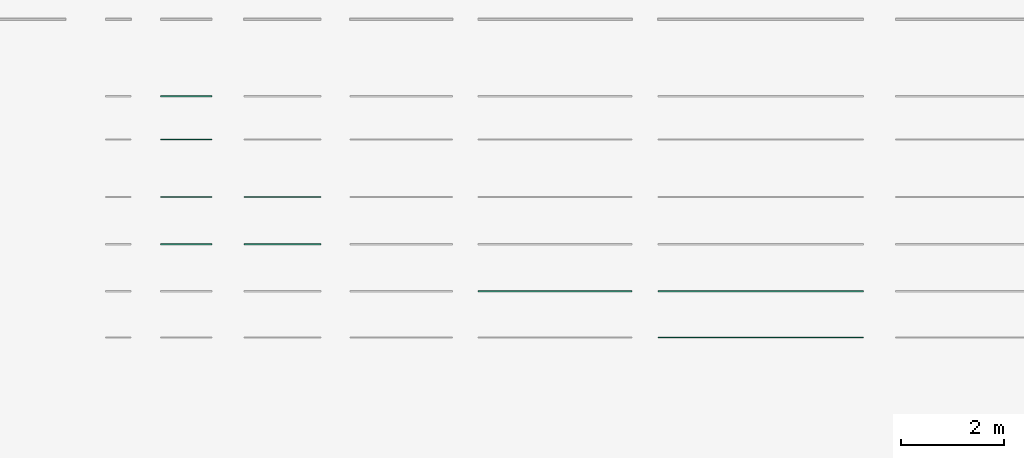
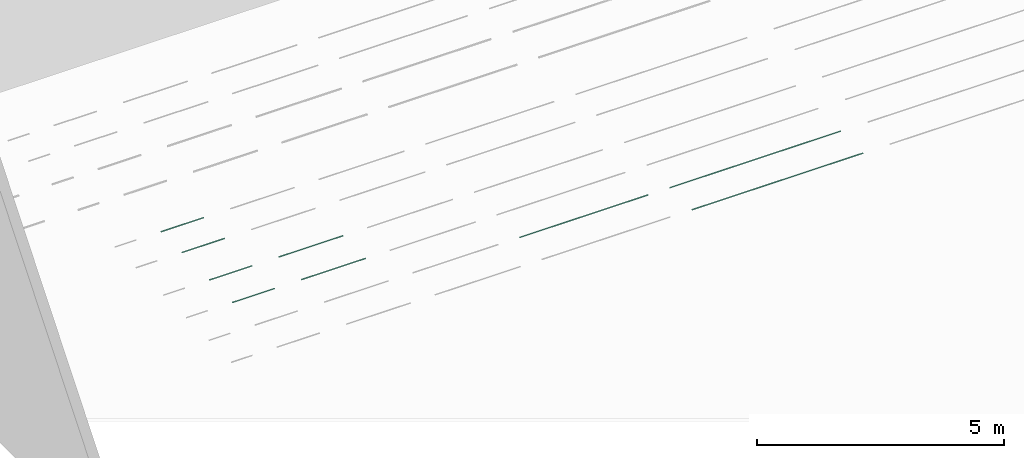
# One storey, part 6 of 197: 9 flow terminals.
"""IFC2X3 building model written with IfcOpenShell, lengths in metres."""

from ifc_helpers import new_model, entity, si_unit, converted_unit, direction, frame, frame_2d, origin, origin_2d_with_axis, place, context, subcontext, project, spatial, polyline, rectangle, circle, outline, extrude, source, transform, mapped, material, material_list, type_object, type_shapes, element, save


model = new_model("IFC2X3")

# Units and contexts
model_context = context("Model", 3, precision=1e-05, world=origin(), true_north=direction((6.123031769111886e-17, 1.0)))
body_context = subcontext(model_context, "Body", "Model", "MODEL_VIEW")
ifc_project = project(units=[si_unit("LENGTHUNIT", "METRE"), converted_unit("PLANEANGLEUNIT", "DEGREE", entity("IfcPlaneAngleMeasure", 0.017453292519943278), si_unit("PLANEANGLEUNIT", "RADIAN"), dimensions=[0, 0, 0, 0, 0, 0, 0]), si_unit("AREAUNIT", "SQUARE_METRE")], contexts=[model_context])

# Site, building, storey
site_placement = place(None, origin())
site = spatial("IfcSite", under=ifc_project, at=site_placement, Name="Default", CompositionType="ELEMENT")
building_placement = place(site_placement, origin())
building = spatial("IfcBuilding", under=site, at=building_placement, CompositionType="ELEMENT")
storey_placement = place(building_placement, origin())
storey = spatial("IfcBuildingStorey", under=building, at=storey_placement, Name="Niveau 0", CompositionType="ELEMENT", Elevation=0.0)

# Flow terminals
ifc_material_1 = material(Name="BETCE-DIFFUSEUR-BLANC")
ifc_material_2 = material(Name="<Unnamed>")
ifc_material_list = material_list([ifc_material_1, ifc_material_2])
light_fixture_type_1 = type_object("IfcLightFixtureType", Name="Profilé alu sailli_suspendu_engravure-20X20:PROF-SAILLIE -1M", PredefinedType="NOTDEFINED", material=ifc_material_list)
shared_shape_1 = source(origin(), body_context, "Body", "SweptSolid", [
    extrude(rectangle(XDim=0.9959999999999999, YDim=0.018935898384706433, at=origin_2d_with_axis()), frame((0.0, 0.0, 1.4999999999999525), z_axis=(0.0, 0.0, 1.0), x_axis=(-1.0, 0.0, 0.0)), (0.0, 0.0, 1.0), 0.0008000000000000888),
    extrude(outline(polyline([(0.004349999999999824, -0.009467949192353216), (0.0051499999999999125, -0.009467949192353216), (0.0051499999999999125, 0.009467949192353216), (0.004349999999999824, 0.009467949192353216), (0.004349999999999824, 0.010467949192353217), (-0.0138500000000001, 0.010467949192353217), (-0.0138500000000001, -0.010467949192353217), (0.004349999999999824, -0.010467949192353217), (0.004349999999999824, -0.009467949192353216)])), frame((0.498, 0.0, 1.5051499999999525), z_axis=(1.0, 0.0, 0.0), x_axis=(0.0, 0.0, -1.0)), (0.0, 0.0, 1.0), 0.002000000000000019),
    extrude(outline(polyline([(0.009467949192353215, -0.004349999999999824), (0.010467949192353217, -0.004349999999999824), (0.010467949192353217, 0.0138500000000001), (-0.010467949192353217, 0.0138500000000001), (-0.010467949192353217, -0.004349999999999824), (-0.009467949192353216, -0.004349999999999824), (-0.009467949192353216, -0.0051499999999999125), (0.009467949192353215, -0.0051499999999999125), (0.009467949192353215, -0.004349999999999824)])), frame((-0.49999999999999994, 0.0, 1.5051499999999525), z_axis=(1.0, 0.0, 0.0), x_axis=(0.0, 1.0, 0.0)), (0.0, 0.0, 1.0), 0.002000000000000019),
    extrude(outline(polyline([(-0.012292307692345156, -0.011500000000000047), (0.007707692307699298, -0.011500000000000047), (0.007707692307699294, -0.009467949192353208), (0.0069076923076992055, -0.009467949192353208), (0.006907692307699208, -0.010467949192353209), (-0.011292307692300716, -0.010467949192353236), (-0.011292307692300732, 0.0), (-0.011292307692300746, 0.010467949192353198), (0.006907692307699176, 0.010467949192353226), (0.006907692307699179, 0.009467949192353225), (0.0077076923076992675, 0.009467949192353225), (0.007707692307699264, 0.011500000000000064), (-0.012292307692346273, 0.011500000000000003), (-0.012292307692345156, -0.011500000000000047)])), frame((-0.49999999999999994, 0.0, 1.5077076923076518), z_axis=(1.0, 0.0, 0.0), x_axis=(0.0, 0.0, -1.0)), (0.0, 0.0, 1.0), 1.0),
    extrude(circle(Radius=0.0019999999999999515, at=frame_2d((1.5388467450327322e-29, 0.0), x_axis=(1.0, 0.0))), frame((-0.3999999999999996, 0.0, 1.5199999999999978), z_axis=(0.0, 0.0, 1.0), x_axis=(0.0, -1.0, 0.0)), (0.0, 0.0, 1.0), 0.0010000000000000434),
    extrude(circle(Radius=0.0019999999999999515, at=frame_2d((-4.123551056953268e-20, 0.0), x_axis=(1.0, 0.0))), frame((0.40000000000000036, 0.0, 1.5199999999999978), z_axis=(0.0, 0.0, 1.0), x_axis=(0.0, -1.0, 0.0)), (0.0, 0.0, 1.0), 0.0010000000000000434),
])
type_shapes(light_fixture_type_1, [shared_shape_1])
flow_terminal_1_placement = place(storey_placement, frame((-534.6757105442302, 64.29268111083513, 0.0)))
element("IfcFlowTerminal", 1, at=flow_terminal_1_placement, inside=storey, type_object=light_fixture_type_1, material=ifc_material_list, Name="Profilé alu sailli_suspendu_engravure-20X20:PROF-SAILLIE -1M", ObjectType="Profilé alu sailli_suspendu_engravure-20X20:PROF-SAILLIE -1M", context=body_context, shape_type="MappedRepresentation", body=[
    mapped(shared_shape_1, transform((0.0, 0.0, 0.0), scale=1.0)),
])
light_fixture_type_2 = type_object("IfcLightFixtureType", Name="Profilé alu sailli_suspendu_engravure-20X20:PROF-SAILLIE DALI -1M", PredefinedType="NOTDEFINED", material=ifc_material_list)
shared_shape_2 = source(origin(), body_context, "Body", "SweptSolid", [
    extrude(rectangle(XDim=0.9959999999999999, YDim=0.018935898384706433, at=origin_2d_with_axis()), frame((0.0, 0.0, 1.4999999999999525), z_axis=(0.0, 0.0, 1.0), x_axis=(-1.0, 0.0, 0.0)), (0.0, 0.0, 1.0), 0.0008000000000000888),
    extrude(outline(polyline([(0.004349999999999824, -0.009467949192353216), (0.0051499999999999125, -0.009467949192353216), (0.0051499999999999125, 0.009467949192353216), (0.004349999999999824, 0.009467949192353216), (0.004349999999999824, 0.010467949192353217), (-0.0138500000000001, 0.010467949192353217), (-0.0138500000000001, -0.010467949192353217), (0.004349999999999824, -0.010467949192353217), (0.004349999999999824, -0.009467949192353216)])), frame((0.498, 0.0, 1.5051499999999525), z_axis=(1.0, 0.0, 0.0), x_axis=(0.0, 0.0, -1.0)), (0.0, 0.0, 1.0), 0.002000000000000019),
    extrude(outline(polyline([(0.009467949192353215, -0.004349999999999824), (0.010467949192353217, -0.004349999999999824), (0.010467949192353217, 0.0138500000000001), (-0.010467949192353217, 0.0138500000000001), (-0.010467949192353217, -0.004349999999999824), (-0.009467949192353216, -0.004349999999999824), (-0.009467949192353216, -0.0051499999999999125), (0.009467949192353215, -0.0051499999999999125), (0.009467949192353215, -0.004349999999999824)])), frame((-0.49999999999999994, 0.0, 1.5051499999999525), z_axis=(1.0, 0.0, 0.0), x_axis=(0.0, 1.0, 0.0)), (0.0, 0.0, 1.0), 0.002000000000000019),
    extrude(outline(polyline([(-0.012292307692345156, -0.011500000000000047), (0.007707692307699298, -0.011500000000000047), (0.007707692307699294, -0.009467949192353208), (0.0069076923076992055, -0.009467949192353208), (0.006907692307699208, -0.010467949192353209), (-0.011292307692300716, -0.010467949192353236), (-0.011292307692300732, 0.0), (-0.011292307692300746, 0.010467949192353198), (0.006907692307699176, 0.010467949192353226), (0.006907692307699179, 0.009467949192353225), (0.0077076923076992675, 0.009467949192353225), (0.007707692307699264, 0.011500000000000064), (-0.012292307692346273, 0.011500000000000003), (-0.012292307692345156, -0.011500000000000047)])), frame((-0.49999999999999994, 0.0, 1.5077076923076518), z_axis=(1.0, 0.0, 0.0), x_axis=(0.0, 0.0, -1.0)), (0.0, 0.0, 1.0), 1.0),
    extrude(circle(Radius=0.0019999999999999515, at=frame_2d((1.5388467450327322e-29, 0.0), x_axis=(1.0, 0.0))), frame((-0.3999999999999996, 0.0, 1.5199999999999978), z_axis=(0.0, 0.0, 1.0), x_axis=(0.0, -1.0, 0.0)), (0.0, 0.0, 1.0), 0.0010000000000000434),
    extrude(circle(Radius=0.0019999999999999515, at=frame_2d((-4.123551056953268e-20, 0.0), x_axis=(1.0, 0.0))), frame((0.40000000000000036, 0.0, 1.5199999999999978), z_axis=(0.0, 0.0, 1.0), x_axis=(0.0, -1.0, 0.0)), (0.0, 0.0, 1.0), 0.0010000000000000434),
])
type_shapes(light_fixture_type_2, [shared_shape_2])
flow_terminal_2_placement = place(storey_placement, frame((-534.6757105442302, 63.44635524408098, 0.0)))
element("IfcFlowTerminal", 2, at=flow_terminal_2_placement, inside=storey, type_object=light_fixture_type_2, material=ifc_material_list, Name="Profilé alu sailli_suspendu_engravure-20X20:PROF-SAILLIE DALI -1M", ObjectType="Profilé alu sailli_suspendu_engravure-20X20:PROF-SAILLIE DALI -1M", context=body_context, shape_type="MappedRepresentation", body=[
    mapped(shared_shape_2, transform((0.0, 0.0, 0.0), scale=1.0)),
])
light_fixture_type_3 = type_object("IfcLightFixtureType", Name="Profilé alu sailli_suspendu_engravure-20X20:PROF-SUSPENDU -1.5M", PredefinedType="NOTDEFINED", material=ifc_material_list)
shared_shape_3 = source(origin(), body_context, "Body", "SweptSolid", [
    extrude(rectangle(XDim=1.496, YDim=0.018935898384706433, at=origin_2d_with_axis()), frame((0.0, 0.0, 1.4999999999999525), z_axis=(0.0, 0.0, 1.0), x_axis=(-1.0, 0.0, 0.0)), (0.0, 0.0, 1.0), 0.0008000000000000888),
    extrude(outline(polyline([(0.004349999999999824, -0.009467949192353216), (0.0051499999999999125, -0.009467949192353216), (0.0051499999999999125, 0.009467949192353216), (0.004349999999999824, 0.009467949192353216), (0.004349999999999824, 0.010467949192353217), (-0.0138500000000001, 0.010467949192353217), (-0.0138500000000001, -0.010467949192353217), (0.004349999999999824, -0.010467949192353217), (0.004349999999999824, -0.009467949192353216)])), frame((0.748, 0.0, 1.5051499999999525), z_axis=(1.0, 0.0, 0.0), x_axis=(0.0, 0.0, -1.0)), (0.0, 0.0, 1.0), 0.0019999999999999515),
    extrude(outline(polyline([(0.009467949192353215, -0.004349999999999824), (0.010467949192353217, -0.004349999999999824), (0.010467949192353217, 0.0138500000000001), (-0.010467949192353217, 0.0138500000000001), (-0.010467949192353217, -0.004349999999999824), (-0.009467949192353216, -0.004349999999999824), (-0.009467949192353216, -0.0051499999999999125), (0.009467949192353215, -0.0051499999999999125), (0.009467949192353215, -0.004349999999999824)])), frame((-0.7499999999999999, 0.0, 1.5051499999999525), z_axis=(1.0, 0.0, 0.0), x_axis=(0.0, 1.0, 0.0)), (0.0, 0.0, 1.0), 0.0019999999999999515),
    extrude(outline(polyline([(-0.012292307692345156, -0.011500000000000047), (0.007707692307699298, -0.011500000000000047), (0.007707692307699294, -0.009467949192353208), (0.0069076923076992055, -0.009467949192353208), (0.006907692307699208, -0.010467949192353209), (-0.011292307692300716, -0.010467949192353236), (-0.011292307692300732, 0.0), (-0.011292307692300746, 0.010467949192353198), (0.006907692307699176, 0.010467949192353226), (0.006907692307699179, 0.009467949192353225), (0.0077076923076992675, 0.009467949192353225), (0.007707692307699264, 0.011500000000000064), (-0.012292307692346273, 0.011500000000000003), (-0.012292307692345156, -0.011500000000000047)])), frame((-0.7499999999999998, 0.0, 1.5077076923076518), z_axis=(1.0, 0.0, 0.0), x_axis=(0.0, 0.0, -1.0)), (0.0, 0.0, 1.0), 1.4999999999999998),
    extrude(circle(Radius=0.0019999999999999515, at=frame_2d((1.5388467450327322e-29, 0.0), x_axis=(1.0, 0.0))), frame((-0.6499999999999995, 0.0, 1.5199999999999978), z_axis=(0.0, 0.0, 1.0), x_axis=(0.0, -1.0, 0.0)), (0.0, 0.0, 1.0), 0.0010000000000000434),
    extrude(circle(Radius=0.0019999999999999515, at=frame_2d((-4.123551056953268e-20, 0.0), x_axis=(1.0, 0.0))), frame((0.6500000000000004, 0.0, 1.5199999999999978), z_axis=(0.0, 0.0, 1.0), x_axis=(0.0, -1.0, 0.0)), (0.0, 0.0, 1.0), 0.0010000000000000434),
])
type_shapes(light_fixture_type_3, [shared_shape_3])
flow_terminal_3_placement = place(storey_placement, frame((-532.8067105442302, 62.331355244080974, 0.0)))
element("IfcFlowTerminal", 3, at=flow_terminal_3_placement, inside=storey, type_object=light_fixture_type_3, material=ifc_material_list, Name="Profilé alu sailli_suspendu_engravure-20X20:PROF-SUSPENDU -1.5M", ObjectType="Profilé alu sailli_suspendu_engravure-20X20:PROF-SUSPENDU -1.5M", context=body_context, shape_type="MappedRepresentation", body=[
    mapped(shared_shape_3, transform((0.0, 0.0, 0.0), scale=1.0)),
])
light_fixture_type_4 = type_object("IfcLightFixtureType", Name="Profilé alu sailli_suspendu_engravure-20X20:PROF-SUSPENDU -1M", PredefinedType="NOTDEFINED", material=ifc_material_list)
shared_shape_4 = source(origin(), body_context, "Body", "SweptSolid", [
    extrude(rectangle(XDim=0.9959999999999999, YDim=0.018935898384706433, at=origin_2d_with_axis()), frame((0.0, 0.0, 1.4999999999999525), z_axis=(0.0, 0.0, 1.0), x_axis=(-1.0, 0.0, 0.0)), (0.0, 0.0, 1.0), 0.0008000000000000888),
    extrude(outline(polyline([(0.004349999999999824, -0.009467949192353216), (0.0051499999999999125, -0.009467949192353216), (0.0051499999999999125, 0.009467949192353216), (0.004349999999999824, 0.009467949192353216), (0.004349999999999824, 0.010467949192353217), (-0.0138500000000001, 0.010467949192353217), (-0.0138500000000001, -0.010467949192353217), (0.004349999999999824, -0.010467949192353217), (0.004349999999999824, -0.009467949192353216)])), frame((0.498, 0.0, 1.5051499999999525), z_axis=(1.0, 0.0, 0.0), x_axis=(0.0, 0.0, -1.0)), (0.0, 0.0, 1.0), 0.002000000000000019),
    extrude(outline(polyline([(0.009467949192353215, -0.004349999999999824), (0.010467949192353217, -0.004349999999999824), (0.010467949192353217, 0.0138500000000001), (-0.010467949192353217, 0.0138500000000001), (-0.010467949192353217, -0.004349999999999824), (-0.009467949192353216, -0.004349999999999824), (-0.009467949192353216, -0.0051499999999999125), (0.009467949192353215, -0.0051499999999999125), (0.009467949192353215, -0.004349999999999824)])), frame((-0.49999999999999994, 0.0, 1.5051499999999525), z_axis=(1.0, 0.0, 0.0), x_axis=(0.0, 1.0, 0.0)), (0.0, 0.0, 1.0), 0.002000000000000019),
    extrude(outline(polyline([(-0.012292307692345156, -0.011500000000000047), (0.007707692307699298, -0.011500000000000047), (0.007707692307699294, -0.009467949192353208), (0.0069076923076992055, -0.009467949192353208), (0.006907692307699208, -0.010467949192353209), (-0.011292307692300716, -0.010467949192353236), (-0.011292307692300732, 0.0), (-0.011292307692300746, 0.010467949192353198), (0.006907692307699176, 0.010467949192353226), (0.006907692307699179, 0.009467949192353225), (0.0077076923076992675, 0.009467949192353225), (0.007707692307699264, 0.011500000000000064), (-0.012292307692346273, 0.011500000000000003), (-0.012292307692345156, -0.011500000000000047)])), frame((-0.49999999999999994, 0.0, 1.5077076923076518), z_axis=(1.0, 0.0, 0.0), x_axis=(0.0, 0.0, -1.0)), (0.0, 0.0, 1.0), 1.0),
    extrude(circle(Radius=0.0019999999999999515, at=frame_2d((1.5388467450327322e-29, 0.0), x_axis=(1.0, 0.0))), frame((-0.3999999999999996, 0.0, 1.5199999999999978), z_axis=(0.0, 0.0, 1.0), x_axis=(0.0, -1.0, 0.0)), (0.0, 0.0, 1.0), 0.0010000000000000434),
    extrude(circle(Radius=0.0019999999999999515, at=frame_2d((-4.123551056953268e-20, 0.0), x_axis=(1.0, 0.0))), frame((0.40000000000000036, 0.0, 1.5199999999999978), z_axis=(0.0, 0.0, 1.0), x_axis=(0.0, -1.0, 0.0)), (0.0, 0.0, 1.0), 0.0010000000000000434),
])
type_shapes(light_fixture_type_4, [shared_shape_4])
flow_terminal_4_placement = place(storey_placement, frame((-534.6757105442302, 62.331355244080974, 0.0)))
element("IfcFlowTerminal", 4, at=flow_terminal_4_placement, inside=storey, type_object=light_fixture_type_4, material=ifc_material_list, Name="Profilé alu sailli_suspendu_engravure-20X20:PROF-SUSPENDU -1M", ObjectType="Profilé alu sailli_suspendu_engravure-20X20:PROF-SUSPENDU -1M", context=body_context, shape_type="MappedRepresentation", body=[
    mapped(shared_shape_4, transform((0.0, 0.0, 0.0), scale=1.0)),
])
light_fixture_type_5 = type_object("IfcLightFixtureType", Name="Profilé alu sailli_suspendu_engravure-20X20:PROF-SUSPENDU DALI -1.5M", PredefinedType="NOTDEFINED", material=ifc_material_list)
shared_shape_5 = source(origin(), body_context, "Body", "SweptSolid", [
    extrude(rectangle(XDim=1.496, YDim=0.018935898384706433, at=origin_2d_with_axis()), frame((0.0, 0.0, 1.4999999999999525), z_axis=(0.0, 0.0, 1.0), x_axis=(-1.0, 0.0, 0.0)), (0.0, 0.0, 1.0), 0.0008000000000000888),
    extrude(outline(polyline([(0.004349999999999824, -0.009467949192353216), (0.0051499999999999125, -0.009467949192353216), (0.0051499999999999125, 0.009467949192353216), (0.004349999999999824, 0.009467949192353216), (0.004349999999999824, 0.010467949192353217), (-0.0138500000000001, 0.010467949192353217), (-0.0138500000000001, -0.010467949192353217), (0.004349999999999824, -0.010467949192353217), (0.004349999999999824, -0.009467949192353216)])), frame((0.748, 0.0, 1.5051499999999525), z_axis=(1.0, 0.0, 0.0), x_axis=(0.0, 0.0, -1.0)), (0.0, 0.0, 1.0), 0.0019999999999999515),
    extrude(outline(polyline([(0.009467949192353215, -0.004349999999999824), (0.010467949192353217, -0.004349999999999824), (0.010467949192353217, 0.0138500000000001), (-0.010467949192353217, 0.0138500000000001), (-0.010467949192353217, -0.004349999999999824), (-0.009467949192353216, -0.004349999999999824), (-0.009467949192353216, -0.0051499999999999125), (0.009467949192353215, -0.0051499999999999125), (0.009467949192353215, -0.004349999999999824)])), frame((-0.7499999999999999, 0.0, 1.5051499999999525), z_axis=(1.0, 0.0, 0.0), x_axis=(0.0, 1.0, 0.0)), (0.0, 0.0, 1.0), 0.0019999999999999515),
    extrude(outline(polyline([(-0.012292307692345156, -0.011500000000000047), (0.007707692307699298, -0.011500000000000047), (0.007707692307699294, -0.009467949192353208), (0.0069076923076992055, -0.009467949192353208), (0.006907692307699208, -0.010467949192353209), (-0.011292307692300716, -0.010467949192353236), (-0.011292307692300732, 0.0), (-0.011292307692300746, 0.010467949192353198), (0.006907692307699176, 0.010467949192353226), (0.006907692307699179, 0.009467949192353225), (0.0077076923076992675, 0.009467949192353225), (0.007707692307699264, 0.011500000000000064), (-0.012292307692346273, 0.011500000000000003), (-0.012292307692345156, -0.011500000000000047)])), frame((-0.7499999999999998, 0.0, 1.5077076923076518), z_axis=(1.0, 0.0, 0.0), x_axis=(0.0, 0.0, -1.0)), (0.0, 0.0, 1.0), 1.4999999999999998),
    extrude(circle(Radius=0.0019999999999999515, at=frame_2d((1.5388467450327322e-29, 0.0), x_axis=(1.0, 0.0))), frame((-0.6499999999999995, 0.0, 1.5199999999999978), z_axis=(0.0, 0.0, 1.0), x_axis=(0.0, -1.0, 0.0)), (0.0, 0.0, 1.0), 0.0010000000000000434),
    extrude(circle(Radius=0.0019999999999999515, at=frame_2d((-4.123551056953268e-20, 0.0), x_axis=(1.0, 0.0))), frame((0.6500000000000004, 0.0, 1.5199999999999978), z_axis=(0.0, 0.0, 1.0), x_axis=(0.0, -1.0, 0.0)), (0.0, 0.0, 1.0), 0.0010000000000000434),
])
type_shapes(light_fixture_type_5, [shared_shape_5])
flow_terminal_5_placement = place(storey_placement, frame((-532.8067105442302, 61.41235524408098, 0.0)))
element("IfcFlowTerminal", 5, at=flow_terminal_5_placement, inside=storey, type_object=light_fixture_type_5, material=ifc_material_list, Name="Profilé alu sailli_suspendu_engravure-20X20:PROF-SUSPENDU DALI -1.5M", ObjectType="Profilé alu sailli_suspendu_engravure-20X20:PROF-SUSPENDU DALI -1.5M", context=body_context, shape_type="MappedRepresentation", body=[
    mapped(shared_shape_5, transform((0.0, 0.0, 0.0), scale=1.0)),
])
light_fixture_type_6 = type_object("IfcLightFixtureType", Name="Profilé alu sailli_suspendu_engravure-20X20:PROF-SUSPENDU DALI -1M", PredefinedType="NOTDEFINED", material=ifc_material_list)
shared_shape_6 = source(origin(), body_context, "Body", "SweptSolid", [
    extrude(rectangle(XDim=0.9959999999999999, YDim=0.018935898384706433, at=origin_2d_with_axis()), frame((0.0, 0.0, 1.4999999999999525), z_axis=(0.0, 0.0, 1.0), x_axis=(-1.0, 0.0, 0.0)), (0.0, 0.0, 1.0), 0.0008000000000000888),
    extrude(outline(polyline([(0.004349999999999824, -0.009467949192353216), (0.0051499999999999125, -0.009467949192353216), (0.0051499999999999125, 0.009467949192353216), (0.004349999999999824, 0.009467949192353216), (0.004349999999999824, 0.010467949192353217), (-0.0138500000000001, 0.010467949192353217), (-0.0138500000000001, -0.010467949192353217), (0.004349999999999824, -0.010467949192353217), (0.004349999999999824, -0.009467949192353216)])), frame((0.498, 0.0, 1.5051499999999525), z_axis=(1.0, 0.0, 0.0), x_axis=(0.0, 0.0, -1.0)), (0.0, 0.0, 1.0), 0.002000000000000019),
    extrude(outline(polyline([(0.009467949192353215, -0.004349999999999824), (0.010467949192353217, -0.004349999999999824), (0.010467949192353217, 0.0138500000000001), (-0.010467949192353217, 0.0138500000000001), (-0.010467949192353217, -0.004349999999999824), (-0.009467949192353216, -0.004349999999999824), (-0.009467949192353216, -0.0051499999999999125), (0.009467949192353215, -0.0051499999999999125), (0.009467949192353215, -0.004349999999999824)])), frame((-0.49999999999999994, 0.0, 1.5051499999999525), z_axis=(1.0, 0.0, 0.0), x_axis=(0.0, 1.0, 0.0)), (0.0, 0.0, 1.0), 0.002000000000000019),
    extrude(outline(polyline([(-0.012292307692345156, -0.011500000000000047), (0.007707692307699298, -0.011500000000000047), (0.007707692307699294, -0.009467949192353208), (0.0069076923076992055, -0.009467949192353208), (0.006907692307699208, -0.010467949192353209), (-0.011292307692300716, -0.010467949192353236), (-0.011292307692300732, 0.0), (-0.011292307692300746, 0.010467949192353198), (0.006907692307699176, 0.010467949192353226), (0.006907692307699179, 0.009467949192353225), (0.0077076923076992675, 0.009467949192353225), (0.007707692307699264, 0.011500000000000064), (-0.012292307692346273, 0.011500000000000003), (-0.012292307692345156, -0.011500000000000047)])), frame((-0.49999999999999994, 0.0, 1.5077076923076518), z_axis=(1.0, 0.0, 0.0), x_axis=(0.0, 0.0, -1.0)), (0.0, 0.0, 1.0), 1.0),
    extrude(circle(Radius=0.0019999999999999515, at=frame_2d((1.5388467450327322e-29, 0.0), x_axis=(1.0, 0.0))), frame((-0.3999999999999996, 0.0, 1.5199999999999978), z_axis=(0.0, 0.0, 1.0), x_axis=(0.0, -1.0, 0.0)), (0.0, 0.0, 1.0), 0.0010000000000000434),
    extrude(circle(Radius=0.0019999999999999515, at=frame_2d((-4.123551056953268e-20, 0.0), x_axis=(1.0, 0.0))), frame((0.40000000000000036, 0.0, 1.5199999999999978), z_axis=(0.0, 0.0, 1.0), x_axis=(0.0, -1.0, 0.0)), (0.0, 0.0, 1.0), 0.0010000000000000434),
])
type_shapes(light_fixture_type_6, [shared_shape_6])
flow_terminal_6_placement = place(storey_placement, frame((-534.6757105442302, 61.41235524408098, 0.0)))
element("IfcFlowTerminal", 6, at=flow_terminal_6_placement, inside=storey, type_object=light_fixture_type_6, material=ifc_material_list, Name="Profilé alu sailli_suspendu_engravure-20X20:PROF-SUSPENDU DALI -1M", ObjectType="Profilé alu sailli_suspendu_engravure-20X20:PROF-SUSPENDU DALI -1M", context=body_context, shape_type="MappedRepresentation", body=[
    mapped(shared_shape_6, transform((0.0, 0.0, 0.0), scale=1.0)),
])
light_fixture_type_7 = type_object("IfcLightFixtureType", Name="Profilé alu sailli_suspendu_engravure-20X20:PROF-ENGRAVURE -3M", PredefinedType="NOTDEFINED", material=ifc_material_list)
shared_shape_7 = source(origin(), body_context, "Body", "SweptSolid", [
    extrude(rectangle(XDim=2.9959999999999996, YDim=0.018935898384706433, at=origin_2d_with_axis()), frame((0.0, 0.0, 1.4999999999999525), z_axis=(0.0, 0.0, 1.0), x_axis=(-1.0, 0.0, 0.0)), (0.0, 0.0, 1.0), 0.0008000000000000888),
    extrude(outline(polyline([(0.004349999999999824, -0.009467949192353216), (0.0051499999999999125, -0.009467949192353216), (0.0051499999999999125, 0.009467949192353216), (0.004349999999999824, 0.009467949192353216), (0.004349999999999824, 0.010467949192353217), (-0.0138500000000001, 0.010467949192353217), (-0.0138500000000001, -0.010467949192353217), (0.004349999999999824, -0.010467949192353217), (0.004349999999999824, -0.009467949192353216)])), frame((1.4979999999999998, 0.0, 1.5051499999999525), z_axis=(1.0, 0.0, 0.0), x_axis=(0.0, 0.0, -1.0)), (0.0, 0.0, 1.0), 0.0020000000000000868),
    extrude(outline(polyline([(0.009467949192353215, -0.004349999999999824), (0.010467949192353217, -0.004349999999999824), (0.010467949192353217, 0.0138500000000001), (-0.010467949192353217, 0.0138500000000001), (-0.010467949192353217, -0.004349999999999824), (-0.009467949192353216, -0.004349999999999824), (-0.009467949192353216, -0.0051499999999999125), (0.009467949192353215, -0.0051499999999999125), (0.009467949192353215, -0.004349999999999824)])), frame((-1.4999999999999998, 0.0, 1.5051499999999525), z_axis=(1.0, 0.0, 0.0), x_axis=(0.0, 1.0, 0.0)), (0.0, 0.0, 1.0), 0.0020000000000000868),
    extrude(outline(polyline([(-0.012292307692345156, -0.011500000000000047), (0.007707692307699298, -0.011500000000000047), (0.007707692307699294, -0.009467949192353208), (0.0069076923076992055, -0.009467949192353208), (0.006907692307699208, -0.010467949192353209), (-0.011292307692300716, -0.010467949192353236), (-0.011292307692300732, 0.0), (-0.011292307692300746, 0.010467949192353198), (0.006907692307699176, 0.010467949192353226), (0.006907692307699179, 0.009467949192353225), (0.0077076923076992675, 0.009467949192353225), (0.007707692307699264, 0.011500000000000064), (-0.012292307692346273, 0.011500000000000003), (-0.012292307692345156, -0.011500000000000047)])), frame((-1.4999999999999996, 0.0, 1.5077076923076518), z_axis=(1.0, 0.0, 0.0), x_axis=(0.0, 0.0, -1.0)), (0.0, 0.0, 1.0), 2.9999999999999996),
    extrude(circle(Radius=0.0019999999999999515, at=frame_2d((1.5388467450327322e-29, 0.0), x_axis=(1.0, 0.0))), frame((-1.3999999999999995, 0.0, 1.5199999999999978), z_axis=(0.0, 0.0, 1.0), x_axis=(0.0, -1.0, 0.0)), (0.0, 0.0, 1.0), 0.0010000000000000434),
    extrude(circle(Radius=0.0019999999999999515, at=frame_2d((-4.123551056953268e-20, 0.0), x_axis=(1.0, 0.0))), frame((1.4000000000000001, 0.0, 1.5199999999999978), z_axis=(0.0, 0.0, 1.0), x_axis=(0.0, -1.0, 0.0)), (0.0, 0.0, 1.0), 0.0010000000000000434),
])
type_shapes(light_fixture_type_7, [shared_shape_7])
flow_terminal_7_placement = place(storey_placement, frame((-527.4987105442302, 60.49435524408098, 0.0)))
element("IfcFlowTerminal", 7, at=flow_terminal_7_placement, inside=storey, type_object=light_fixture_type_7, material=ifc_material_list, Name="Profilé alu sailli_suspendu_engravure-20X20:PROF-ENGRAVURE -3M", ObjectType="Profilé alu sailli_suspendu_engravure-20X20:PROF-ENGRAVURE -3M", context=body_context, shape_type="MappedRepresentation", body=[
    mapped(shared_shape_7, transform((0.0, 0.0, 0.0), scale=1.0)),
])
light_fixture_type_8 = type_object("IfcLightFixtureType", Name="Profilé alu sailli_suspendu_engravure-20X20:PROF-ENGRAVURE -4M", PredefinedType="NOTDEFINED", material=ifc_material_list)
shared_shape_8 = source(origin(), body_context, "Body", "SweptSolid", [
    extrude(rectangle(XDim=3.9959999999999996, YDim=0.018935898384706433, at=origin_2d_with_axis()), frame((0.0, 0.0, 1.4999999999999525), z_axis=(0.0, 0.0, 1.0), x_axis=(-1.0, 0.0, 0.0)), (0.0, 0.0, 1.0), 0.0008000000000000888),
    extrude(outline(polyline([(0.004349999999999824, -0.009467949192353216), (0.0051499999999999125, -0.009467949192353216), (0.0051499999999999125, 0.009467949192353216), (0.004349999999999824, 0.009467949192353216), (0.004349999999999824, 0.010467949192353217), (-0.0138500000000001, 0.010467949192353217), (-0.0138500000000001, -0.010467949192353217), (0.004349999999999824, -0.010467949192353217), (0.004349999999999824, -0.009467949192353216)])), frame((1.998, 0.0, 1.5051499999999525), z_axis=(1.0, 0.0, 0.0), x_axis=(0.0, 0.0, -1.0)), (0.0, 0.0, 1.0), 0.0020000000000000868),
    extrude(outline(polyline([(0.009467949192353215, -0.004349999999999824), (0.010467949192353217, -0.004349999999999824), (0.010467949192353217, 0.0138500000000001), (-0.010467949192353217, 0.0138500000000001), (-0.010467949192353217, -0.004349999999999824), (-0.009467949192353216, -0.004349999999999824), (-0.009467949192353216, -0.0051499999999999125), (0.009467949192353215, -0.0051499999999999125), (0.009467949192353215, -0.004349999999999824)])), frame((-2.0, 0.0, 1.5051499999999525), z_axis=(1.0, 0.0, 0.0), x_axis=(0.0, 1.0, 0.0)), (0.0, 0.0, 1.0), 0.0020000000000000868),
    extrude(outline(polyline([(-0.012292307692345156, -0.011500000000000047), (0.007707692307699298, -0.011500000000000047), (0.007707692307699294, -0.009467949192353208), (0.0069076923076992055, -0.009467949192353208), (0.006907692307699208, -0.010467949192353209), (-0.011292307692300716, -0.010467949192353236), (-0.011292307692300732, 0.0), (-0.011292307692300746, 0.010467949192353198), (0.006907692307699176, 0.010467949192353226), (0.006907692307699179, 0.009467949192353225), (0.0077076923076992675, 0.009467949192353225), (0.007707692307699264, 0.011500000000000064), (-0.012292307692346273, 0.011500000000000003), (-0.012292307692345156, -0.011500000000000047)])), frame((-2.0, 0.0, 1.5077076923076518), z_axis=(1.0, 0.0, 0.0), x_axis=(0.0, 0.0, -1.0)), (0.0, 0.0, 1.0), 3.9999999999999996),
    extrude(circle(Radius=0.0019999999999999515, at=frame_2d((1.5388467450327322e-29, 0.0), x_axis=(1.0, 0.0))), frame((-1.8999999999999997, 0.0, 1.5199999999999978), z_axis=(0.0, 0.0, 1.0), x_axis=(0.0, -1.0, 0.0)), (0.0, 0.0, 1.0), 0.0010000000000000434),
    extrude(circle(Radius=0.0019999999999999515, at=frame_2d((-4.123551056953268e-20, 0.0), x_axis=(1.0, 0.0))), frame((1.9000000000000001, 0.0, 1.5199999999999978), z_axis=(0.0, 0.0, 1.0), x_axis=(0.0, -1.0, 0.0)), (0.0, 0.0, 1.0), 0.0010000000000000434),
])
type_shapes(light_fixture_type_8, [shared_shape_8])
flow_terminal_8_placement = place(storey_placement, frame((-523.4967105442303, 60.49435524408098, 0.0)))
element("IfcFlowTerminal", 8, at=flow_terminal_8_placement, inside=storey, type_object=light_fixture_type_8, material=ifc_material_list, Name="Profilé alu sailli_suspendu_engravure-20X20:PROF-ENGRAVURE -4M", ObjectType="Profilé alu sailli_suspendu_engravure-20X20:PROF-ENGRAVURE -4M", context=body_context, shape_type="MappedRepresentation", body=[
    mapped(shared_shape_8, transform((0.0, 0.0, 0.0), scale=1.0)),
])
light_fixture_type_9 = type_object("IfcLightFixtureType", Name="Profilé alu sailli_suspendu_engravure-20X20:PROF-ENGRAVURE DALI -4M", PredefinedType="NOTDEFINED", material=ifc_material_list)
shared_shape_9 = source(origin(), body_context, "Body", "SweptSolid", [
    extrude(rectangle(XDim=3.9959999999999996, YDim=0.018935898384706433, at=origin_2d_with_axis()), frame((0.0, 0.0, 1.4999999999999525), z_axis=(0.0, 0.0, 1.0), x_axis=(-1.0, 0.0, 0.0)), (0.0, 0.0, 1.0), 0.0008000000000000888),
    extrude(outline(polyline([(0.004349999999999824, -0.009467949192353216), (0.0051499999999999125, -0.009467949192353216), (0.0051499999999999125, 0.009467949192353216), (0.004349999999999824, 0.009467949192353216), (0.004349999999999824, 0.010467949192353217), (-0.0138500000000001, 0.010467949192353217), (-0.0138500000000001, -0.010467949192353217), (0.004349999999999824, -0.010467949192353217), (0.004349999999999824, -0.009467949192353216)])), frame((1.998, 0.0, 1.5051499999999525), z_axis=(1.0, 0.0, 0.0), x_axis=(0.0, 0.0, -1.0)), (0.0, 0.0, 1.0), 0.0020000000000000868),
    extrude(outline(polyline([(0.009467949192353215, -0.004349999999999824), (0.010467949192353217, -0.004349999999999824), (0.010467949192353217, 0.0138500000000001), (-0.010467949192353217, 0.0138500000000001), (-0.010467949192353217, -0.004349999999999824), (-0.009467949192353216, -0.004349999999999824), (-0.009467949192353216, -0.0051499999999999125), (0.009467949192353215, -0.0051499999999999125), (0.009467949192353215, -0.004349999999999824)])), frame((-2.0, 0.0, 1.5051499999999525), z_axis=(1.0, 0.0, 0.0), x_axis=(0.0, 1.0, 0.0)), (0.0, 0.0, 1.0), 0.0020000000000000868),
    extrude(outline(polyline([(-0.012292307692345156, -0.011500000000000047), (0.007707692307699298, -0.011500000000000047), (0.007707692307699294, -0.009467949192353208), (0.0069076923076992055, -0.009467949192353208), (0.006907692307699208, -0.010467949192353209), (-0.011292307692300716, -0.010467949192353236), (-0.011292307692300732, 0.0), (-0.011292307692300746, 0.010467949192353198), (0.006907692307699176, 0.010467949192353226), (0.006907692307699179, 0.009467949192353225), (0.0077076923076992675, 0.009467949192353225), (0.007707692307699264, 0.011500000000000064), (-0.012292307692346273, 0.011500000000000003), (-0.012292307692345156, -0.011500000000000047)])), frame((-2.0, 0.0, 1.5077076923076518), z_axis=(1.0, 0.0, 0.0), x_axis=(0.0, 0.0, -1.0)), (0.0, 0.0, 1.0), 3.9999999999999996),
    extrude(circle(Radius=0.0019999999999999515, at=frame_2d((1.5388467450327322e-29, 0.0), x_axis=(1.0, 0.0))), frame((-1.8999999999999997, 0.0, 1.5199999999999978), z_axis=(0.0, 0.0, 1.0), x_axis=(0.0, -1.0, 0.0)), (0.0, 0.0, 1.0), 0.0010000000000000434),
    extrude(circle(Radius=0.0019999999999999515, at=frame_2d((-4.123551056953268e-20, 0.0), x_axis=(1.0, 0.0))), frame((1.9000000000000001, 0.0, 1.5199999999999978), z_axis=(0.0, 0.0, 1.0), x_axis=(0.0, -1.0, 0.0)), (0.0, 0.0, 1.0), 0.0010000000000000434),
])
type_shapes(light_fixture_type_9, [shared_shape_9])
flow_terminal_9_placement = place(storey_placement, frame((-523.4967105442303, 59.59735524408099, 0.0)))
element("IfcFlowTerminal", 9, at=flow_terminal_9_placement, inside=storey, type_object=light_fixture_type_9, material=ifc_material_list, Name="Profilé alu sailli_suspendu_engravure-20X20:PROF-ENGRAVURE DALI -4M", ObjectType="Profilé alu sailli_suspendu_engravure-20X20:PROF-ENGRAVURE DALI -4M", context=body_context, shape_type="MappedRepresentation", body=[
    mapped(shared_shape_9, transform((0.0, 0.0, 0.0), scale=1.0)),
])

save(model, "model.ifc")
